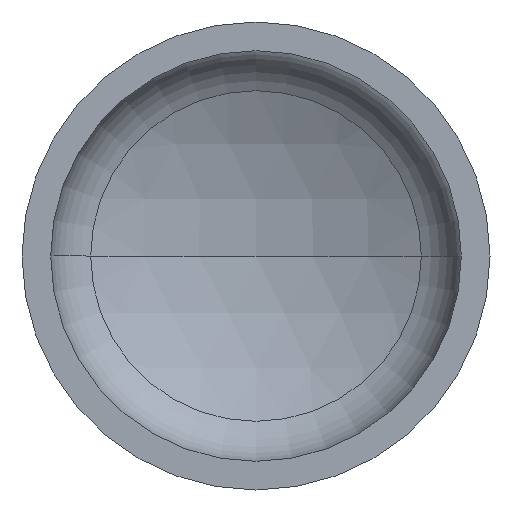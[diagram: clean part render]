
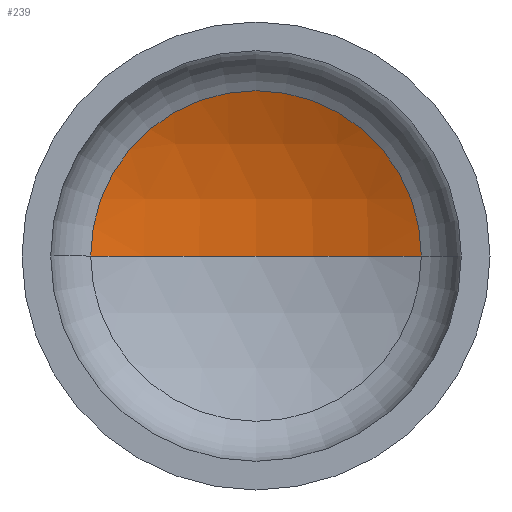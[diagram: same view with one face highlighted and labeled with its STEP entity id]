
A CAD part, front view. The second image highlights one B-rep face of the part: STEP entity #239.
In plain terms, the highlighted spherical face has radius 1280 mm.
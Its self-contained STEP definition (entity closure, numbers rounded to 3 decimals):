
#7 = VERTEX_POINT ( 'NONE', #233 ) ;
#20 = CARTESIAN_POINT ( 'NONE',  ( 565.179, 319.823, 0. ) ) ;
#24 = AXIS2_PLACEMENT_3D ( 'NONE', #263, #394, #172 ) ;
#25 = SPHERICAL_SURFACE ( 'NONE', #24, 1280. ) ;
#31 = AXIS2_PLACEMENT_3D ( 'NONE', #132, #166, #298 ) ;
#36 = AXIS2_PLACEMENT_3D ( 'NONE', #309, #173, #194 ) ;
#40 = AXIS2_PLACEMENT_3D ( 'NONE', #283, #201, #359 ) ;
#55 = VERTEX_POINT ( 'NONE', #281 ) ;
#78 = EDGE_LOOP ( 'NONE', ( #138, #91, #93 ) ) ;
#84 = EDGE_CURVE ( 'NONE', #101, #7, #308, .T. ) ;
#91 = ORIENTED_EDGE ( 'NONE', *, *, #146, .T. ) ;
#93 = ORIENTED_EDGE ( 'NONE', *, *, #84, .T. ) ;
#101 = VERTEX_POINT ( 'NONE', #20 ) ;
#132 = CARTESIAN_POINT ( 'NONE',  ( 0., -828.642, 0. ) ) ;
#138 = ORIENTED_EDGE ( 'NONE', *, *, #167, .F. ) ;
#146 = EDGE_CURVE ( 'NONE', #55, #101, #300, .T. ) ;
#166 = DIRECTION ( 'NONE',  ( 0., 0., 1. ) ) ;
#167 = EDGE_CURVE ( 'NONE', #55, #7, #366, .T. ) ;
#172 = DIRECTION ( 'NONE',  ( -1., 0., 0. ) ) ;
#173 = DIRECTION ( 'NONE',  ( 0., 0., -1. ) ) ;
#194 = DIRECTION ( 'NONE',  ( -1., 0., 0. ) ) ;
#201 = DIRECTION ( 'NONE',  ( 0., -1., 0. ) ) ;
#233 = CARTESIAN_POINT ( 'NONE',  ( -565.179, 319.823, 0. ) ) ;
#239 = ADVANCED_FACE ( 'NONE', ( #358 ), #25, .F. ) ;
#263 = CARTESIAN_POINT ( 'NONE',  ( 0., -828.642, 0. ) ) ;
#281 = CARTESIAN_POINT ( 'NONE',  ( 0., 451.358, 0. ) ) ;
#283 = CARTESIAN_POINT ( 'NONE',  ( 0., 319.823, 0. ) ) ;
#298 = DIRECTION ( 'NONE',  ( 1., 0., 0. ) ) ;
#300 = CIRCLE ( 'NONE', #36, 1280. ) ;
#308 = CIRCLE ( 'NONE', #40, 565.179 ) ;
#309 = CARTESIAN_POINT ( 'NONE',  ( 0., -828.642, 0. ) ) ;
#358 = FACE_OUTER_BOUND ( 'NONE', #78, .T. ) ;
#359 = DIRECTION ( 'NONE',  ( 1., 0., 0. ) ) ;
#366 = CIRCLE ( 'NONE', #31, 1280. ) ;
#394 = DIRECTION ( 'NONE',  ( 0., 0., -1. ) ) ;
